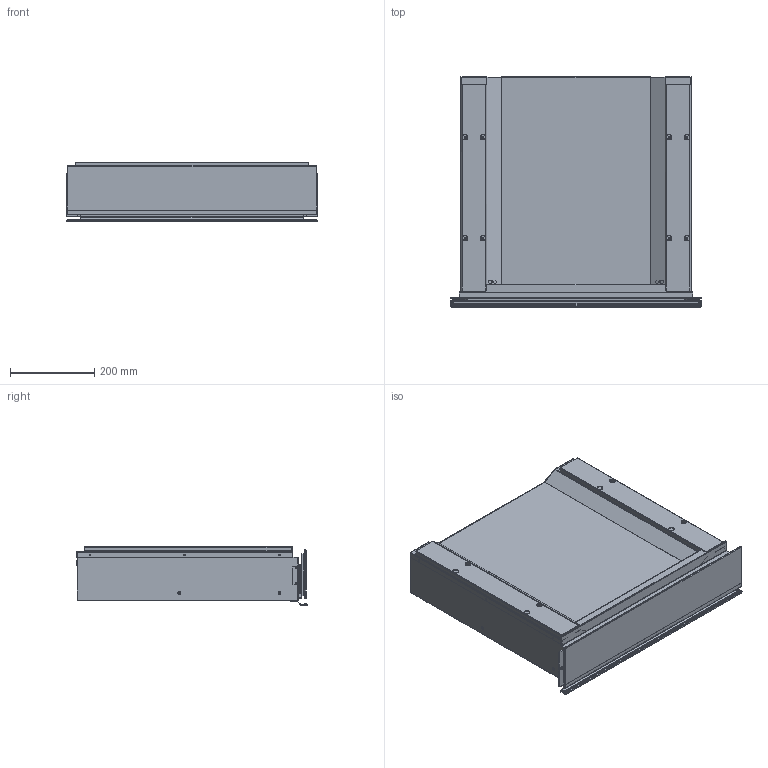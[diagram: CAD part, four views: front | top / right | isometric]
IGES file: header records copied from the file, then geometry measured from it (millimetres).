
Global section: file name: F:\_CONVERSIONE_CAD_2024_2025\03_3D kits new\06_Warming Drawer\3D001_Warming-Drawers_Mythos_FMY-14-DRW\3D001_Warming-Drawers_Mythos_FMY-14-DRW.igs; native system: Rhinoceros ( Jan  9 2024 ); preprocessor: Trout Lake IGES 012 Jan  9 2024; date: 240207.113010; units: millimetre
Bounding box: 596 x 547 x 141.75 mm (x, y, z)
Surface area: 2906098.9 mm2 (no closed solid volume)
Topology: 0 solids, 0 shells, 1089 faces, 7126 edges, 6859 vertices
Faces by surface type: bspline 1089
